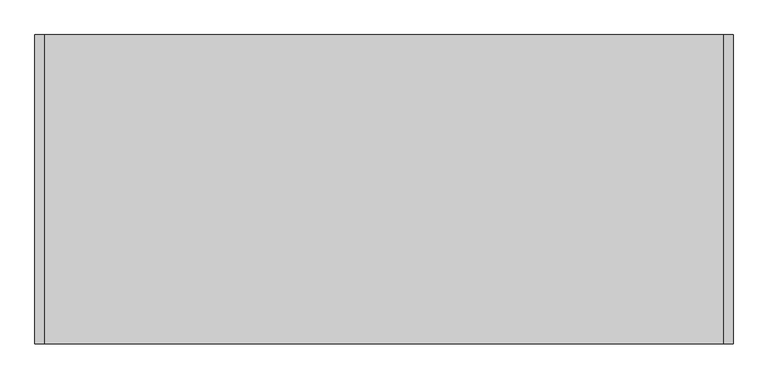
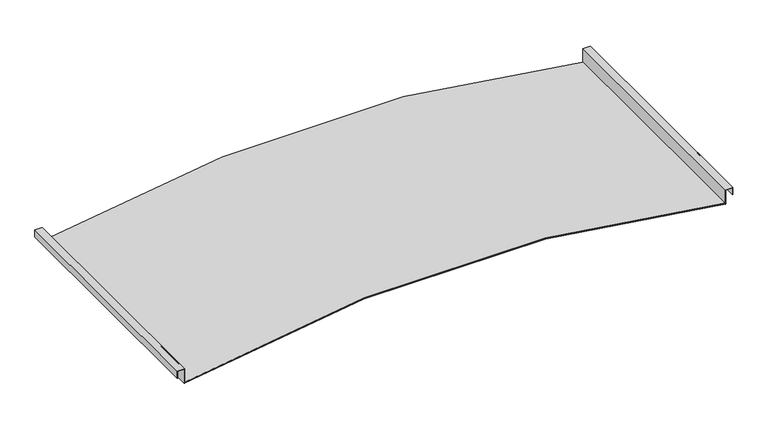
"""IFC4 building model written with IfcOpenShell, lengths in millimetres: proxy geometry, durlum_S5_DOMUS_panel : durlum_S5_DOMUS_panel_wall_width_cut."""

from ifc_helpers import new_model, si_unit, point, frame, frame_2d, origin, place, context, project, spatial, polyline, circle_curve, trimmed, segment, composite_curve, outline, extrude, source, transform, mapped, element, save


def generic_models_ec380e44(model_context):
    return source(origin(), model_context, "Body", "SweptSolid", [
        extrude(outline(composite_curve([segment(trimmed(circle_curve(frame_2d((-2486.2520833, 0.0)), 2547.2520833), [point((1.2448365, -548.5))], [point((1.2448365, 548.5))], True, "CARTESIAN"), True, "CONTINUOUS"), segment(polyline([(1.2448365, 548.5), (2.2688489, 548.5)]), True, "CONTINUOUS"), segment(trimmed(circle_curve(frame_2d((-2486.2520833, 0.0)), 2548.2520833), [point((2.2688489, 548.5))], [point((2.2688489, -548.5))], False, "CARTESIAN"), True, "CONTINUOUS"), segment(polyline([(2.2688489, -548.5), (1.2448365, -548.5)]), True, "CONTINUOUS")], self_intersect=False)), frame((0.0, -249.75, 0.0), z_axis=(0.0, 1.0, 0.0), x_axis=(0.0, 0.0, 1.0)), (0.0, 0.0, 1.0), 499.5),
        extrude(outline(polyline([(30.0, -549.5), (0.0, -549.5), (0.0, -548.5), (31.0, -548.5), (31.0, -563.5), (16.0, -563.5), (16.0, -562.5), (30.0, -562.5), (30.0, -549.5)])), frame((0.0, -249.75, 0.0), z_axis=(0.0, 1.0, 0.0), x_axis=(0.0, 0.0, 1.0)), (0.0, 0.0, 1.0), 499.5),
        extrude(outline(polyline([(30.0, 549.5), (30.0, 562.5), (16.0, 562.5), (16.0, 563.5), (31.0, 563.5), (31.0, 548.5), (0.0, 548.5), (0.0, 549.5), (30.0, 549.5)])), frame((0.0, -249.75, 0.0), z_axis=(0.0, 1.0, 0.0), x_axis=(0.0, 0.0, 1.0)), (0.0, 0.0, 1.0), 499.5),
        extrude(outline(composite_curve([segment(polyline([(1.0241229, -549.5), (0.0, -549.5)]), True, "CONTINUOUS"), segment(trimmed(circle_curve(frame_2d((-2486.2520833, 0.0)), 2546.2520833), [point((0.0, -549.5))], [point((0.0, 549.5))], True, "CARTESIAN"), True, "CONTINUOUS"), segment(polyline([(0.0, 549.5), (1.0241229, 549.5)]), True, "CONTINUOUS"), segment(trimmed(circle_curve(frame_2d((-2486.2520833, 0.0)), 2547.2520833), [point((1.0241229, 549.5))], [point((1.0241229, -549.5))], False, "CARTESIAN"), True, "CONTINUOUS")], self_intersect=False)), frame((0.0, -249.75, 0.0), z_axis=(0.0, 1.0, 0.0), x_axis=(0.0, 0.0, 1.0)), (0.0, 0.0, 1.0), 499.5),
    ])


if __name__ == "__main__":
    model = new_model("IFC4")
    model_context = context("Model", 3, world=origin())
    ifc_project = project(units=[si_unit("LENGTHUNIT", "METRE", prefix="MILLI")], contexts=[model_context])
    site = spatial("IfcSite", under=ifc_project)
    building = spatial("IfcBuilding", under=site)
    placement = place(None, origin())
    generic_models_shape = generic_models_ec380e44(model_context)
    element("IfcBuildingElementProxy", 1, Name="durlum_S5_DOMUS_panel : durlum_S5_DOMUS_panel_wall_width_cut", ObjectType="durlum_S5_DOMUS_panel : durlum_S5_DOMUS_panel_wall_width_cut", at=placement, inside=building, context=model_context, shape_type="MappedRepresentation", body=[
        mapped(generic_models_shape, transform((0.0, 0.0, 0.0), x_axis=(1.0, 0.0, 0.0), y_axis=(0.0, 1.0, 0.0), z_axis=(0.0, 0.0, 1.0))),
    ])
    save(model, "model.ifc")
